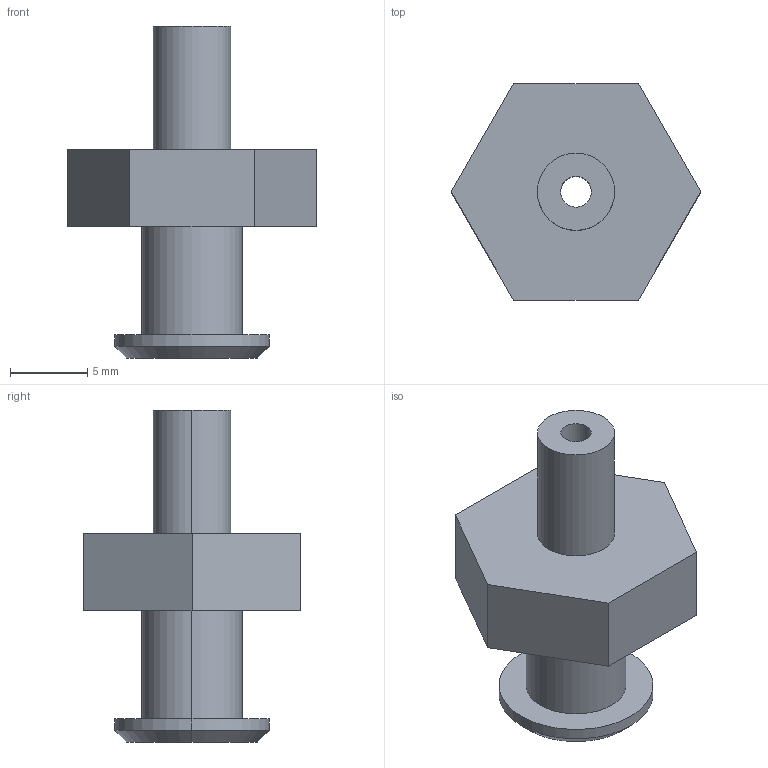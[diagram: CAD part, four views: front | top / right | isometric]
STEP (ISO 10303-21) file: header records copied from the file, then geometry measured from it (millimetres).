
FILE_DESCRIPTION (( 'STEP AP214' ), '1' );
FILE_NAME ('VM35-M5.STEP', '2023-03-07T08:39:45', ( 'Windows User' ), ( 'P R C' ), 'SwSTEP 2.0', 'SolidWorks 2019', '' );
FILE_SCHEMA (( 'AUTOMOTIVE_DESIGN' ));
Length unit declared in the file: millimetre
Products named in the file (1): VM35-M5
Bounding box: 16.17 x 14 x 21.5 mm (x, y, z)
Volume: 1172.8 mm3; surface area: 1178.4 mm2
Topology: 1 solids, 1 shells, 28 faces, 64 edges, 42 vertices
Faces by surface type: plane 18, cylinder 8, cone 2
Entity records: 828 total; most frequent: DIRECTION 140, CARTESIAN_POINT 135, ORIENTED_EDGE 128, EDGE_CURVE 64, AXIS2_PLACEMENT_3D 47, VECTOR 46, LINE 46, VERTEX_POINT 42
